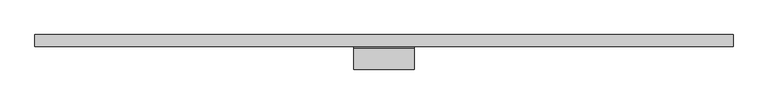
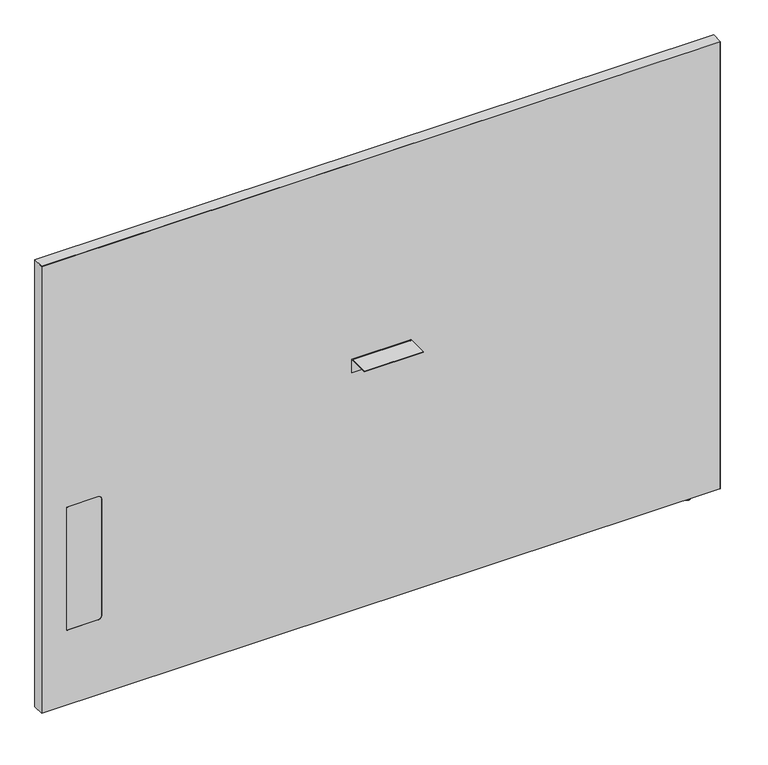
"""IFC4 building model written with IfcOpenShell, lengths in millimetres: furniture geometry, Steelcase - Answer Solution - Boundary Screen - Straight - Single Sided : 48H x 69W."""

from ifc_helpers import new_model, si_unit, point, frame, frame_2d, origin, place, context, project, spatial, polyline, circle_curve, ellipse_curve, trimmed, segment, composite_curve, outline, extrude, source, transform, mapped, element, save
from ifc_brep_helpers import plane_surface, cylinder_surface, revolved_surface, advanced_brep


def furniture_955d476e(model_context):
    return source(origin(), model_context, "Body", "SolidModel", [
        extrude(outline(composite_curve([segment(polyline([(-86.8398151, 696.4680019), (-86.8398151, 698.5), (-34.9450855, 698.5)]), True, "CONTINUOUS"), segment(trimmed(circle_curve(frame_2d((-34.9450855, 693.2447477)), 5.2552523), [point((-34.9450855, 698.5))], [point((-29.6898332, 693.2447477))], False, "CARTESIAN"), True, "CONTINUOUS"), segment(polyline([(-29.6898332, 693.2447477), (-29.6898332, 660.4), (-31.7218162, 660.4), (-31.7218162, 693.0058743)]), True, "CONTINUOUS"), segment(trimmed(circle_curve(frame_2d((-35.1839438, 693.0058743)), 3.4621276), [point((-31.7218162, 693.0058743))], [point((-35.1839438, 696.4680019))], True, "CARTESIAN"), True, "CONTINUOUS"), segment(polyline([(-35.1839438, 696.4680019), (-86.8398151, 696.4680019)]), True, "CONTINUOUS")], self_intersect=False)), frame((153.6191407, 0.0, 0.0), z_axis=(1.0, 0.0, 0.0), x_axis=(0.0, 1.0, 0.0)), (0.0, 0.0, 1.0), 152.4000969),
        advanced_brep(
        [(1028.9286488, -23.7588726, 9.9059849), (1028.9286488, -5.9309607, 9.9059849), (1028.9286488, -14.8449166, 9.9059849), (1028.9286488, -23.7588726, 2.9673238), (1028.9286488, -5.9309607, 2.9673238), (1028.9286488, -22.7915354, 2.9673238), (1028.9286488, -6.8982978, 2.9673238), (1028.9286488, -22.7915354, 1.6569081), (1028.9286488, -6.8982978, 1.6569081), (1028.9286488, -21.1346274, 0.0), (1028.9286488, -8.5552059, 0.0), (1028.9286488, -14.8449166, 0.0)],
        [
            (0, 1, circle_curve(frame((1028.9286488, -14.8449166, 9.9059849), z_axis=(0.0, 0.0, 1.0), x_axis=(0.0, 1.0, 0.0)), 8.913956)),
            (1, 2),
            (2, 0),
            (1, 0, circle_curve(frame((1028.9286488, -14.8449166, 9.9059849), z_axis=(0.0, 0.0, 1.0), x_axis=(0.0, 1.0, 0.0)), 8.913956)),
            (3, 4, circle_curve(frame((1028.9286488, -14.8449166, 2.9673238), z_axis=(0.0, 0.0, 1.0), x_axis=(0.0, 1.0, 0.0)), 8.913956)),
            (4, 1),
            (0, 3),
            (4, 3, circle_curve(frame((1028.9286488, -14.8449166, 2.9673238), z_axis=(0.0, 0.0, 1.0), x_axis=(0.0, 1.0, 0.0)), 8.913956)),
            (5, 6, circle_curve(frame((1028.9286488, -14.8449166, 2.9673238), z_axis=(0.0, 0.0, 1.0), x_axis=(0.0, 1.0, 0.0)), 7.9466188)),
            (6, 4),
            (3, 5),
            (6, 5, circle_curve(frame((1028.9286488, -14.8449166, 2.9673238), z_axis=(0.0, 0.0, 1.0), x_axis=(0.0, 1.0, 0.0)), 7.9466188)),
            (7, 8, circle_curve(frame((1028.9286488, -14.8449166, 1.6569081), z_axis=(0.0, 0.0, 1.0), x_axis=(0.0, 1.0, 0.0)), 7.9466188)),
            (8, 6),
            (5, 7),
            (8, 7, circle_curve(frame((1028.9286488, -14.8449166, 1.6569081), z_axis=(0.0, 0.0, 1.0), x_axis=(0.0, 1.0, 0.0)), 7.9466188)),
            (9, 10, circle_curve(frame((1028.9286488, -14.8449166, 0.0), z_axis=(0.0, 0.0, 1.0), x_axis=(0.0, 1.0, 0.0)), 6.2897107)),
            (10, 8, circle_curve(frame((1028.9286488, -8.5552059, 1.6569081), z_axis=(1.0, 0.0, 0.0), x_axis=(0.0, 1.0, 0.0)), 1.6569081)),
            (7, 9, circle_curve(frame((1028.9286488, -21.1346274, 1.6569081), z_axis=(1.0, 0.0, 0.0), x_axis=(0.0, -1.0, 0.0)), 1.6569081)),
            (10, 9, circle_curve(frame((1028.9286488, -14.8449166, 0.0), z_axis=(0.0, 0.0, 1.0), x_axis=(0.0, 1.0, 0.0)), 6.2897107)),
            (11, 10),
            (9, 11),
        ],
        [
            plane_surface(frame((1028.9286488, -14.8449166, 9.9059849), z_axis=(0.0, 0.0, 1.0), x_axis=(0.0, 1.0, 0.0))),
            cylinder_surface(frame((1028.9286488, -14.8449166, 9.9059849), z_axis=(0.0, 0.0, -1.0), x_axis=(0.0, 1.0, 0.0)), 8.913956),
            plane_surface(frame((1028.9286488, -14.8449166, 2.9673238), z_axis=(0.0, 0.0, -1.0), x_axis=(0.0, 1.0, 0.0))),
            cylinder_surface(frame((1028.9286488, -14.8449166, 9.9059849), z_axis=(0.0, 0.0, -1.0), x_axis=(0.0, 1.0, 0.0)), 7.9466188),
            revolved_surface(trimmed(ellipse_curve(frame((1028.9286488, -8.5552059, 1.6569081), z_axis=(-1.0, 0.0, 0.0), x_axis=(0.0, 1.0, 0.0)), 1.6569081, 1.6569081), [point((1028.9286488, -6.8982978, 1.6569081))], [point((1028.9286488, -8.5552059, 0.0))], True, "CARTESIAN"), (1028.9286488, -14.8449166, 9.9059849), (0.0, 0.0, -1.0)),
            plane_surface(frame((1028.9286488, -14.8449166, 0.0), z_axis=(0.0, 0.0, -1.0), x_axis=(0.0, 1.0, 0.0))),
        ],
        [
            (0, [[1, 2, 3]]),
            (0, [[4, -3, -2]]),
            (1, [[5, 6, -1, 7]]),
            (1, [[8, -7, -4, -6]]),
            (2, [[9, 10, -5, 11]]),
            (2, [[12, -11, -8, -10]]),
            (3, [[13, 14, -9, 15]]),
            (3, [[16, -15, -12, -14]]),
            (4, [[17, 18, -13, 19]]),
            (4, [[20, -19, -16, -18]]),
            (5, [[21, -17, 22]]),
            (5, [[-22, -20, -21]]),
        ],
    ),
        advanced_brep(
        [(1105.0780168, 0.0, 1229.142118), (1105.0780168, 0.0, 9.9059849), (-645.4902221, 0.0, 9.9059849), (-645.4902221, 0.0, 1229.142118), (1105.0780168, -29.6898332, 1229.142118), (-645.4902221, -29.6898332, 1229.142118), (-645.4902221, -29.6898332, 9.9059849), (1105.0780168, -29.6898332, 9.9059849), (-501.1463873, -29.6898332, 549.6162029), (-490.9863873, -29.6898332, 539.4562029), (-490.9863873, -29.6898332, 223.9362137), (-501.1463873, -29.6898332, 213.7762137), (-580.800285, -29.6898332, 213.7762137), (-580.800285, -29.6898332, 549.6162029), (-580.800285, -29.0550397, 549.6162029), (-501.1463873, -29.0550397, 549.6162029), (-580.800285, -29.0550397, 213.7762137), (-501.1463873, -29.0550397, 213.7762137), (-490.9863873, -29.0550397, 223.9362137), (-490.9863873, -29.0550397, 539.4562029)],
        [
            (0, 1),
            (1, 2),
            (2, 3),
            (3, 0),
            (4, 5),
            (5, 6),
            (6, 7),
            (7, 4),
            (8, 9, circle_curve(frame((-501.1463873, -29.6898332, 539.4562029), z_axis=(0.0, 1.0, 0.0), x_axis=(0.0, 0.0, 1.0)), 10.16)),
            (9, 10),
            (10, 11, circle_curve(frame((-501.1463873, -29.6898332, 223.9362137), z_axis=(0.0, 1.0, 0.0), x_axis=(0.0, 0.0, 1.0)), 10.16)),
            (11, 12),
            (12, 13),
            (13, 8),
            (0, 4),
            (7, 1),
            (6, 2),
            (5, 3),
            (13, 14),
            (14, 15),
            (15, 8),
            (12, 16),
            (16, 14),
            (11, 17),
            (17, 16),
            (10, 18),
            (18, 17, circle_curve(frame((-501.1463873, -29.0550397, 223.9362137), z_axis=(0.0, 1.0, 0.0), x_axis=(0.0, 0.0, 1.0)), 10.16)),
            (9, 19),
            (19, 18),
            (15, 19, circle_curve(frame((-501.1463873, -29.0550397, 539.4562029), z_axis=(0.0, 1.0, 0.0), x_axis=(0.0, 0.0, 1.0)), 10.16)),
        ],
        [
            plane_surface(frame((1105.0780168, 0.0, 1229.142118), z_axis=(0.0, 1.0, 0.0), x_axis=(0.0, 0.0, -1.0))),
            plane_surface(frame((1105.0780168, -29.6898332, 1229.142118), z_axis=(0.0, -1.0, 0.0), x_axis=(0.0, 0.0, 1.0))),
            plane_surface(frame((1105.0780168, 0.0, 1229.142118), z_axis=(1.0, 0.0, 0.0), x_axis=(0.0, -1.0, 0.0))),
            plane_surface(frame((1105.0780168, 0.0, 9.9059849), z_axis=(0.0, 0.0, -1.0), x_axis=(0.0, -1.0, 0.0))),
            plane_surface(frame((-645.4902221, 0.0, 9.9059849), z_axis=(-1.0, 0.0, 0.0), x_axis=(0.0, -1.0, 0.0))),
            plane_surface(frame((-645.4902221, 0.0, 1229.142118), z_axis=(0.0, 0.0, 1.0), x_axis=(0.0, -1.0, 0.0))),
            plane_surface(frame((-501.1463873, 0.0, 549.6162029), z_axis=(0.0, 0.0, -1.0), x_axis=(0.0, -1.0, 0.0))),
            plane_surface(frame((-580.800285, 0.0, 549.6162029), z_axis=(1.0, 0.0, 0.0), x_axis=(0.0, -1.0, 0.0))),
            plane_surface(frame((-580.800285, 0.0, 213.7762137), z_axis=(0.0, 0.0, 1.0), x_axis=(0.0, -1.0, 0.0))),
            revolved_surface(polyline([(-501.1463873, -29.6898332, 234.0962137), (-501.1463873, -29.0550397, 234.0962137)]), (-501.1463873, -29.6898332, 223.9362137), (0.0, -1.0, 0.0)),
            plane_surface(frame((-490.9863873, 0.0, 223.9362137), z_axis=(-1.0, 0.0, 0.0), x_axis=(0.0, -1.0, 0.0))),
            revolved_surface(polyline([(-501.1463873, -29.6898332, 549.6162029), (-501.1463873, -29.0550397, 549.6162029)]), (-501.1463873, -29.6898332, 539.4562029), (0.0, -1.0, 0.0)),
            plane_surface(frame((-490.9863873, -29.0550397, 629.172953), z_axis=(0.0, -1.0, 0.0), x_axis=(0.0, 0.0, 1.0))),
        ],
        [
            (0, [[1, 2, 3, 4]]),
            (1, [[5, 6, 7, 8], [9, 10, 11, 12, 13, 14]]),
            (2, [[-1, 15, -8, 16]]),
            (3, [[-2, -16, -7, 17]]),
            (4, [[-3, -17, -6, 18]]),
            (5, [[-4, -18, -5, -15]]),
            (6, [[-14, 19, 20, 21]]),
            (7, [[-13, 22, 23, -19]]),
            (8, [[-12, 24, 25, -22]]),
            (9, [[-11, 26, 27, -24]]),
            (10, [[-10, 28, 29, -26]]),
            (11, [[-9, -21, 30, -28]]),
            (12, [[-20, -23, -25, -27, -29, -30]]),
        ],
    ),
        extrude(outline(composite_curve([segment(polyline([(549.6162029, -501.1463873), (549.6162029, -580.800285), (213.7762137, -580.800285), (213.7762137, -501.1463873)]), True, "CONTINUOUS"), segment(trimmed(circle_curve(frame_2d((223.9362137, -501.1463873)), 10.16), [point((213.7762137, -501.1463873))], [point((223.9362137, -490.9863873))], False, "CARTESIAN"), True, "CONTINUOUS"), segment(polyline([(223.9362137, -490.9863873), (539.4562029, -490.9863873)]), True, "CONTINUOUS"), segment(trimmed(circle_curve(frame_2d((539.4562029, -501.1463873)), 10.16), [point((539.4562029, -490.9863873))], [point((549.6162029, -501.1463873))], False, "CARTESIAN"), True, "CONTINUOUS")], self_intersect=False)), frame((0.0, -29.6898332, 0.0), z_axis=(0.0, 1.0, 0.0), x_axis=(0.0, 0.0, 1.0)), (0.0, 0.0, 1.0), 0.6347935),
        extrude(outline(polyline([(1230.122, 1106.1191891), (1230.122, -646.4808109), (9.9059849, -646.4808109), (9.9059849, -645.4902221), (1229.142118, -645.4902221), (1229.142118, 1105.0780168), (9.9059849, 1105.0780168), (9.9059849, 1106.1191891), (1230.122, 1106.1191891)])), frame((0.0, -29.6898332, 0.0), z_axis=(0.0, 1.0, 0.0), x_axis=(0.0, 0.0, 1.0)), (0.0, 0.0, 1.0), 29.6898332),
    ])


if __name__ == "__main__":
    model = new_model("IFC4")
    model_context = context("Model", 3, world=origin())
    ifc_project = project(units=[si_unit("LENGTHUNIT", "METRE", prefix="MILLI")], contexts=[model_context])
    site = spatial("IfcSite", under=ifc_project)
    building = spatial("IfcBuilding", under=site)
    placement = place(None, origin())
    furniture_shape = furniture_955d476e(model_context)
    element("IfcFurniture", 1, ObjectType="Steelcase - Answer Solution - Boundary Screen - Straight - Single Sided : 48H x 69W", at=placement, inside=building, context=model_context, shape_type="MappedRepresentation", body=[
        mapped(furniture_shape, transform((0.0, 0.0, 0.0), x_axis=(1.0, 0.0, 0.0), y_axis=(0.0, 1.0, 0.0), z_axis=(0.0, 0.0, 1.0))),
    ])
    save(model, "model.ifc")
